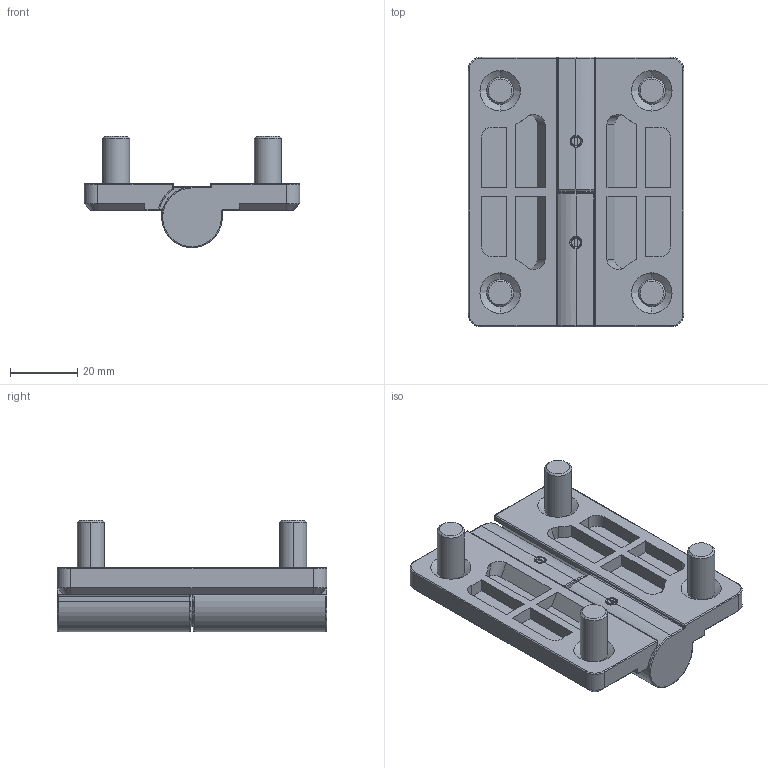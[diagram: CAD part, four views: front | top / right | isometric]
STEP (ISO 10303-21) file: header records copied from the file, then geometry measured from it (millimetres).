
FILE_DESCRIPTION((''),'2;1');
FILE_NAME('ZUOZHUANGPEI_ASM','2016-07-13T',('master'),(''),'PRO/ENGINEER BY PARAMETRIC TECHNOLOGY CORPORATION, 2009060','PRO/ENGINEER BY PARAMETRIC TECHNOLOGY CORPORATION, 2009060','');
FILE_SCHEMA(('CONFIG_CONTROL_DESIGN'));
Length unit declared in the file: millimetre
Products named in the file (5): JIAOLIANYEZUO; ZHUANZHOU; SRCEW; JINDINGLUODING; ZUOZHUANGPEI_ASM
Assembly tree (9 placements, depth 2):
  ZUOZHUANGPEI_ASM
    JIAOLIANYEZUO  x2
    ZHUANZHOU
    SRCEW  x4
    JINDINGLUODING  x2
Bounding box: 64 x 80 x 33 mm (x, y, z)
Volume: 49364.5 mm3; surface area: 23618.5 mm2
Topology: 9 solids, 9 shells, 304 faces, 672 edges, 412 vertices
Faces by surface type: cylinder 120, plane 106, cone 42, torus 18, bspline 12, sphere 6
Entity records: 4572 total; most frequent: CARTESIAN_POINT 990, DIRECTION 794, ORIENTED_EDGE 670, EDGE_CURVE 335, AXIS2_PLACEMENT_3D 316, VERTEX_POINT 206, EDGE_LOOP 167, VECTOR 162
